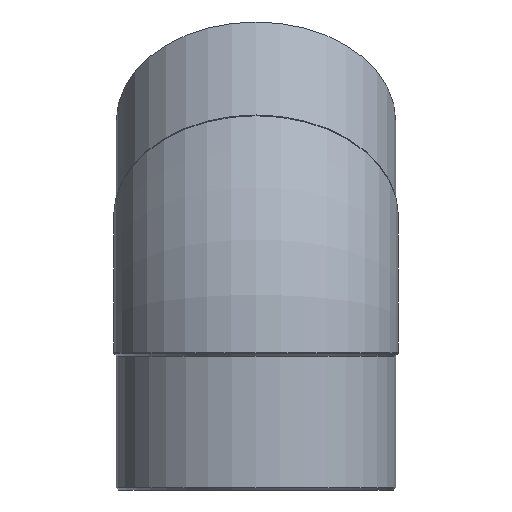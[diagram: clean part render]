
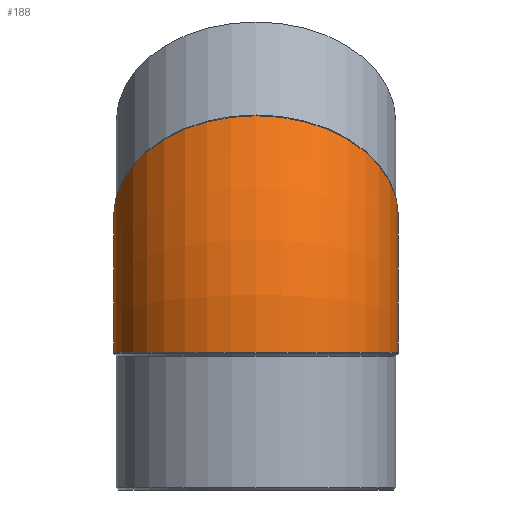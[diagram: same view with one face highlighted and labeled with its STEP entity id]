
A CAD part, left-side view. The second image highlights one B-rep face of the part: STEP entity #188.
In plain terms, the highlighted toroidal (fillet/blend) face has major radius 243.836 mm and minor radius 181 mm.
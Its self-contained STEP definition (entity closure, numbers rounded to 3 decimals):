
#20=TOROIDAL_SURFACE('',#225,243.836,181.);
#53=ORIENTED_EDGE('',*,*,#86,.F.);
#54=ORIENTED_EDGE('',*,*,#87,.T.);
#86=EDGE_CURVE('',#104,#104,#118,.F.);
#87=EDGE_CURVE('',#105,#105,#119,.F.);
#104=VERTEX_POINT('',#351);
#105=VERTEX_POINT('',#354);
#118=CIRCLE('',#224,181.);
#119=CIRCLE('',#226,181.);
#136=EDGE_LOOP('',(#53));
#137=EDGE_LOOP('',(#54));
#163=FACE_BOUND('',#136,.T.);
#164=FACE_BOUND('',#137,.T.);
#188=ADVANCED_FACE('',(#163,#164),#20,.T.);
#224=AXIS2_PLACEMENT_3D('',#350,#270,#271);
#225=AXIS2_PLACEMENT_3D('',#352,#272,#273);
#226=AXIS2_PLACEMENT_3D('',#353,#274,#275);
#270=DIRECTION('',(-0.707,0.,-0.707));
#271=DIRECTION('',(0.707,0.,-0.707));
#272=DIRECTION('',(0.,1.,0.));
#273=DIRECTION('',(0.,0.,1.));
#274=DIRECTION('',(0.,0.,-1.));
#275=DIRECTION('',(1.,0.,0.));
#350=CARTESIAN_POINT('',(71.418,0.,71.418));
#351=CARTESIAN_POINT('',(199.404,0.,-56.569));
#352=CARTESIAN_POINT('',(243.836,0.,-101.));
#353=CARTESIAN_POINT('',(0.,0.,-101.));
#354=CARTESIAN_POINT('',(181.,0.,-101.));
